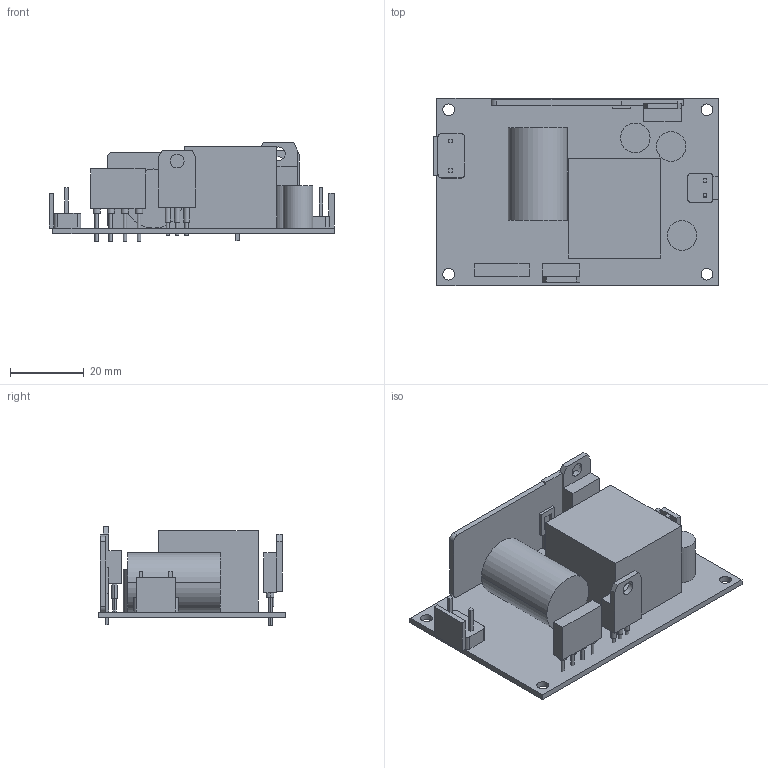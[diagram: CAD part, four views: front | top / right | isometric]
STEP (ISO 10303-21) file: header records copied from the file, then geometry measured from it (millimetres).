
FILE_DESCRIPTION(('Creo Elements/Direct Modeling STEP Export'),'2;1');
FILE_NAME('RPS-30STEP.stp','2020-07-21T14:05:25',(''),(''),'PTC Creo Elements/Direct Modeling STEP processor for AP214 (Solid Model)','PTC Creo Elements/Direct Modeling 19.0E 27-Jun-2016 (C) Parametric Technology GmbH','');
FILE_SCHEMA(('AUTOMOTIVE_DESIGN { 1 0 10303 214 1 1 1 1 }'));
Length unit declared in the file: millimetre
Products named in the file (19): PCB; HS-SZ022; PIN2-2.PRT; CN1-34090_PRT_PRT.PRT; CN1-34420_ASM_ASM.ASM; CN2-26510_PRT_PRT.PRT; CN2-26840_ASM_ASM.ASM; C5.PRT.1; Q1_1.PRT; T1_PRT.PRT; g; C105; C106; C107; Q1_1.PRT.1; part; RPS-30
Assembly tree (18 placements, depth 4):
  RPS-30
    part
      Q1_1.PRT.1
      C107
      C106
      C105
      g
      T1_PRT.PRT
      Q1_1.PRT
      C5.PRT.1
      CN2-26840_ASM_ASM.ASM
        CN2-26510_PRT_PRT.PRT
      CN1-34420_ASM_ASM.ASM
        CN1-34090_PRT_PRT.PRT
      HS-SZ022
        PIN2-2.PRT
        HS-SZ022
    PCB
      PCB
Bounding box: 77.18 x 50.8 x 26.7 mm (x, y, z)
Volume: 31847.3 mm3; surface area: 19845.4 mm2
Topology: 13 solids, 13 shells, 208 faces, 473 edges, 315 vertices
Faces by surface type: plane 134, cylinder 72, cone 2
Entity records: 6694 total; most frequent: CARTESIAN_POINT 975, DIRECTION 965, ORIENTED_EDGE 946, EDGE_CURVE 473, VECTOR 325, LINE 325, AXIS2_PLACEMENT_3D 320, VERTEX_POINT 315
